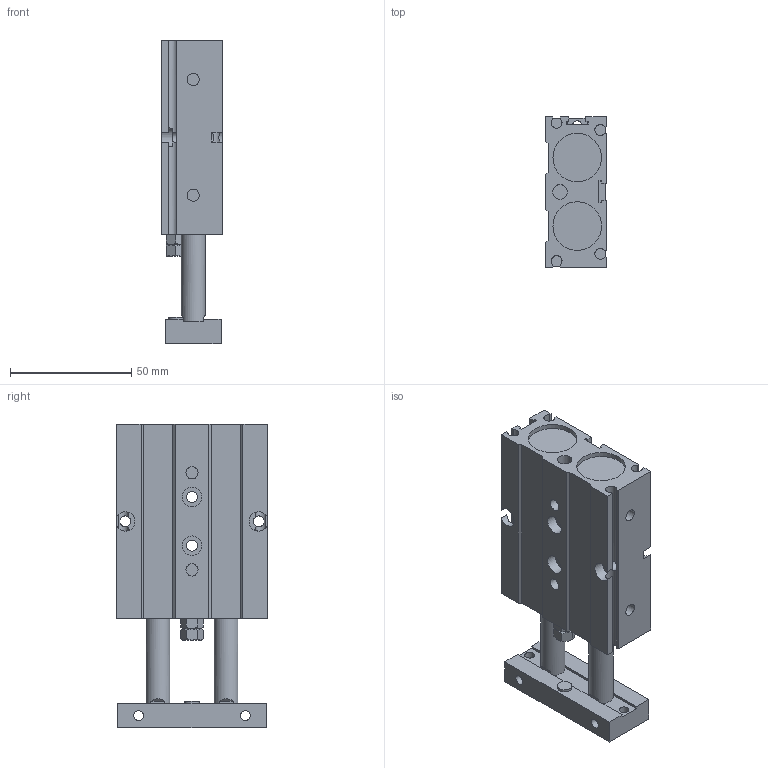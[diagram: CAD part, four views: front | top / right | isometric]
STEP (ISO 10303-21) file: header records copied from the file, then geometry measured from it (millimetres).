
FILE_DESCRIPTION((''),'2;1');
FILE_NAME('I:\3D電子目錄\氣缸\TD\TD20\TD20\TD20x25.stp','2007-08-06T09:46:46',('Administrator'),(''),'Autodesk Inventor 2008','Autodesk Inventor 2008','');
FILE_SCHEMA(('AUTOMOTIVE_DESIGN { 1 0 10303 214 1 1 1 1 }'));
Length unit declared in the file: millimetre
Products named in the file (1): TD20X25
Bounding box: 25 x 62 x 125 mm (x, y, z)
Volume: 125636.8 mm3; surface area: 31874.8 mm2
Topology: 1 solids, 3 shells, 197 faces, 503 edges, 329 vertices
Faces by surface type: plane 136, cylinder 48, cone 7, bspline 4, torus 2
Full cylindrical faces by diameter (mm): 4 x4, 4.5 x4, 5 x4, 6 x2, 7 x2, 8 x6, 9 x2, 10 x2, 20 x4
Entity records: 6108 total; most frequent: CARTESIAN_POINT 1453, DIRECTION 927, ORIENTED_EDGE 916, EDGE_CURVE 458, VERTEX_POINT 323, AXIS2_PLACEMENT_3D 310, VECTOR 307, LINE 307
